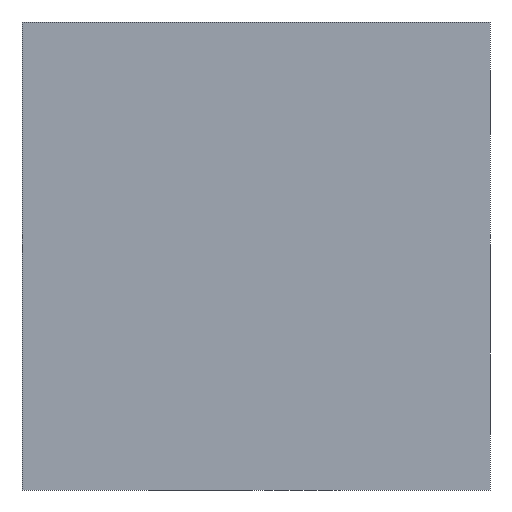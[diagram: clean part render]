
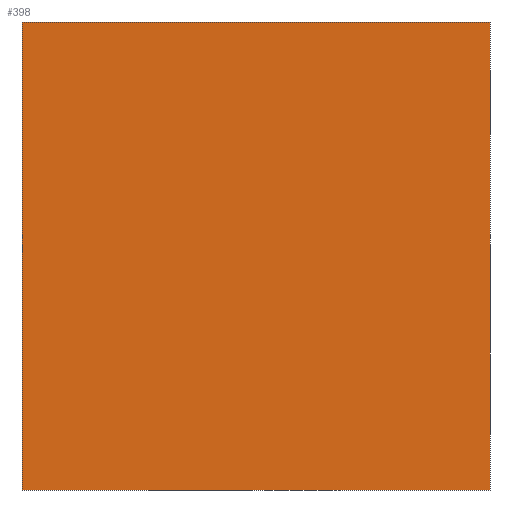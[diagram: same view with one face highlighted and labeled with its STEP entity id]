
A CAD part, front view. The second image highlights one B-rep face of the part: STEP entity #398.
In plain terms, the highlighted planar face has unit normal (0, -1, 0).
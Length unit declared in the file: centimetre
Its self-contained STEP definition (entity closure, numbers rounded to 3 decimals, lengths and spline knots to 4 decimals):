
#33 = DIRECTION ( 'NONE',  ( 0., 1., 0. ) ) ;
#54 = ORIENTED_EDGE ( 'NONE', *, *, #319, .T. ) ;
#62 = CARTESIAN_POINT ( 'NONE',  ( 0., 0., 1000. ) ) ;
#123 = LINE ( 'NONE', #513, #264 ) ;
#147 = ORIENTED_EDGE ( 'NONE', *, *, #152, .F. ) ;
#152 = EDGE_CURVE ( 'NONE', #824, #380, #819, .T. ) ;
#199 = CARTESIAN_POINT ( 'NONE',  ( 1000., 0., 1000. ) ) ;
#209 = DIRECTION ( 'NONE',  ( 0., 0., 1. ) ) ;
#236 = CARTESIAN_POINT ( 'NONE',  ( 0., 0., 0. ) ) ;
#260 = EDGE_CURVE ( 'NONE', #595, #380, #620, .T. ) ;
#264 = VECTOR ( 'NONE', #439, 100. ) ;
#265 = AXIS2_PLACEMENT_3D ( 'NONE', #372, #33, #209 ) ;
#319 = EDGE_CURVE ( 'NONE', #848, #595, #123, .T. ) ;
#372 = CARTESIAN_POINT ( 'NONE',  ( 0., 0., 1000. ) ) ;
#380 = VERTEX_POINT ( 'NONE', #838 ) ;
#394 = DIRECTION ( 'NONE',  ( 1., 0., 0. ) ) ;
#398 = ADVANCED_FACE ( 'NONE', ( #530 ), #758, .F. ) ;
#439 = DIRECTION ( 'NONE',  ( 0., 0., -1. ) ) ;
#467 = CARTESIAN_POINT ( 'NONE',  ( 0., 0., 0. ) ) ;
#513 = CARTESIAN_POINT ( 'NONE',  ( 0., 0., 1000. ) ) ;
#527 = LINE ( 'NONE', #62, #976 ) ;
#530 = FACE_OUTER_BOUND ( 'NONE', #1000, .T. ) ;
#539 = DIRECTION ( 'NONE',  ( 1., 0., 0. ) ) ;
#595 = VERTEX_POINT ( 'NONE', #236 ) ;
#601 = CARTESIAN_POINT ( 'NONE',  ( 0., 0., 1000. ) ) ;
#620 = LINE ( 'NONE', #467, #844 ) ;
#646 = CARTESIAN_POINT ( 'NONE',  ( 1000., 0., 1000. ) ) ;
#730 = ORIENTED_EDGE ( 'NONE', *, *, #260, .T. ) ;
#758 = PLANE ( 'NONE',  #265 ) ;
#812 = DIRECTION ( 'NONE',  ( 0., 0., -1. ) ) ;
#819 = LINE ( 'NONE', #646, #989 ) ;
#824 = VERTEX_POINT ( 'NONE', #199 ) ;
#838 = CARTESIAN_POINT ( 'NONE',  ( 1000., 0., 0. ) ) ;
#841 = ORIENTED_EDGE ( 'NONE', *, *, #990, .F. ) ;
#844 = VECTOR ( 'NONE', #394, 100. ) ;
#848 = VERTEX_POINT ( 'NONE', #601 ) ;
#976 = VECTOR ( 'NONE', #539, 100. ) ;
#989 = VECTOR ( 'NONE', #812, 100. ) ;
#990 = EDGE_CURVE ( 'NONE', #848, #824, #527, .T. ) ;
#1000 = EDGE_LOOP ( 'NONE', ( #730, #147, #841, #54 ) ) ;
